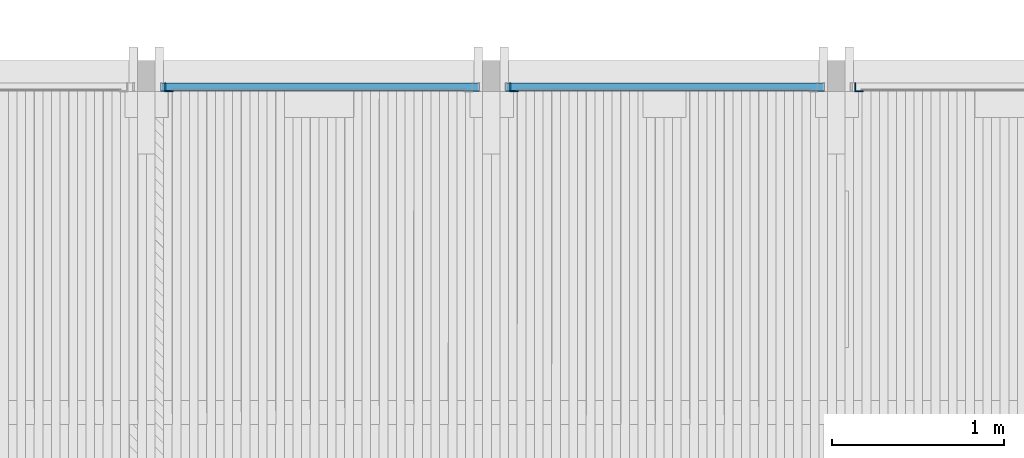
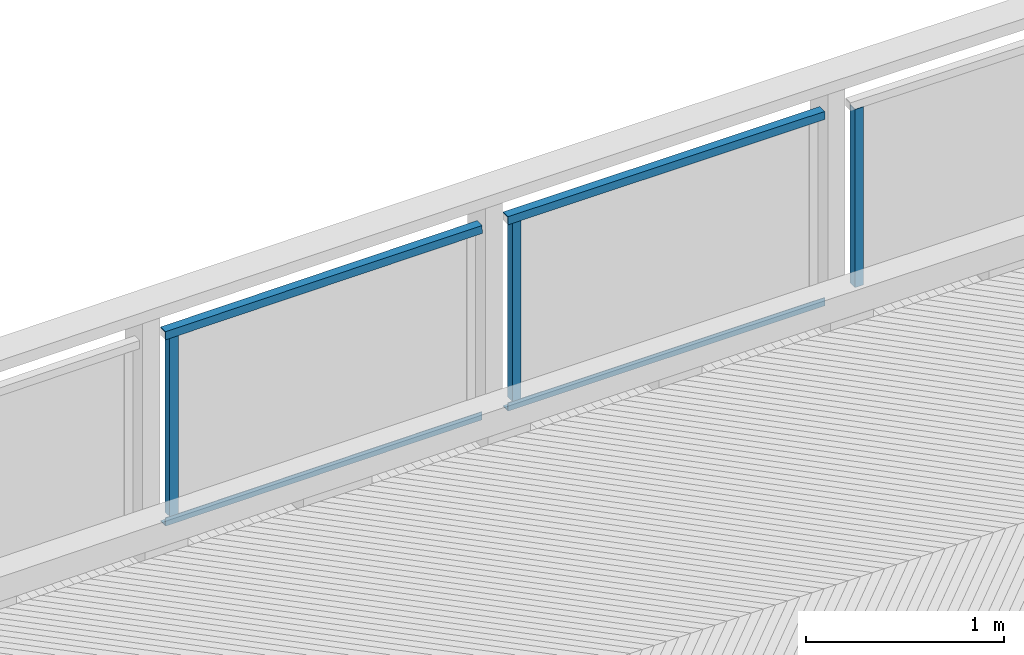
# One storey, part 38 of 65: 7 beams.
"""IFC2X3 building model written with IfcOpenShell, lengths in millimetres."""

from ifc_helpers import new_model, si_unit, frame, origin_with_axes, place, context, subcontext, project, spatial, faceted_brep, material, type_object, element, save


model = new_model("IFC2X3")

# Units and contexts
model_context = context("Model", 3, precision=1e-05, world=origin_with_axes())
body_context = subcontext(model_context, "Body", "Model", "MODEL_VIEW")
ifc_project = project(units=[si_unit("LENGTHUNIT", "METRE", prefix="MILLI"), si_unit("AREAUNIT", "SQUARE_METRE"), si_unit("VOLUMEUNIT", "CUBIC_METRE"), si_unit("MASSUNIT", "GRAM", prefix="KILO"), si_unit("TIMEUNIT", "SECOND"), si_unit("PLANEANGLEUNIT", "RADIAN"), si_unit("SOLIDANGLEUNIT", "STERADIAN"), si_unit("THERMODYNAMICTEMPERATUREUNIT", "DEGREE_CELSIUS"), si_unit("LUMINOUSINTENSITYUNIT", "LUMEN")], contexts=[model_context])

# Site, building, storey
site_placement = place(None, origin_with_axes())
site = spatial("IfcSite", under=ifc_project, at=site_placement, Name="Undefined", CompositionType="ELEMENT")
building_placement = place(site_placement, origin_with_axes())
building = spatial("IfcBuilding", under=site, at=building_placement, Name="Undefined", CompositionType="ELEMENT")
storey_placement = place(building_placement, origin_with_axes())
storey = spatial("IfcBuildingStorey", under=building, at=storey_placement, Name="Undefined", CompositionType="ELEMENT", Elevation=0.0)

# Beams
ifc_material = material(Name="STEEL/S235JR")
beam_type = type_object("IfcBeamType", Name="L50*5", PredefinedType="NOTDEFINED")
for number, where, z_axis, x_axis, name in (
    (1, (8132.49883273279, 24539.9900000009, 4416.23226264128), (0.0, 1.0, 0.0), (0.0, 0.0, -1.0), "BEAM"),
    (2, (6132.49883273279, 24539.9900000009, 4413.27203416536), (0.0, 1.0, 0.0), (0.0, 0.0, -1.0), "BEAM"),
):
    element("IfcBeam", number, at=place(storey_placement, frame(where, z_axis=z_axis, x_axis=x_axis)), inside=storey, type_object=beam_type, material=ifc_material, Name=name, ObjectType="L50*5", context=body_context, shape_type="Brep", body=[
        faceted_brep([(0.0, 25.0, -25.0), (0.0, 25.0, 25.0), (1100.00065383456, 25.0, 25.0), (1100.00065383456, 25.0, -25.0), (0.0, 20.0, 25.0), (1100.00065383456, 20.0, 25.0), (0.0, 20.0, -20.0), (1100.00065383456, 20.0, -20.0), (0.0, -25.0, -20.0), (1100.00065383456, -25.0, -20.0), (0.0, -25.0, -25.0), (1100.00065383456, -25.0, -25.0)], [[[0, 1, 2, 3]], [[1, 4, 5, 2]], [[4, 6, 7, 5]], [[6, 8, 9, 7]], [[8, 10, 11, 9]], [[10, 0, 3, 11]], [[5, 7, 9, 11, 3, 2]], [[10, 8, 6, 4, 1, 0]]]),
    ])
beam_1_placement = place(storey_placement, frame((4132.49883273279, 24539.9900000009, 4403.68498188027), z_axis=(0.0, 1.0, 0.0), x_axis=(0.0, 0.0, -1.0)))
element("IfcBeam", 3, at=beam_1_placement, inside=storey, type_object=beam_type, material=ifc_material, Name="BEAM", ObjectType="L50*5", context=body_context, shape_type="Brep", body=[
    faceted_brep([(0.0, 25.0, -25.0), (0.0, 25.0, 25.0), (1099.9997751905, 25.0, 25.0), (1099.9997751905, 25.0, -25.0), (0.0, 20.0, 25.0), (1099.9997751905, 20.0, 25.0), (0.0, 20.0, -20.0), (1099.9997751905, 20.0, -20.0), (0.0, -25.0, -20.0), (1099.9997751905, -25.0, -20.0), (0.0, -25.0, -25.0), (1099.9997751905, -25.0, -25.0)], [[[0, 1, 2, 3]], [[1, 4, 5, 2]], [[4, 6, 7, 5]], [[6, 8, 9, 7]], [[8, 10, 11, 9]], [[10, 0, 3, 11]], [[5, 7, 9, 11, 3, 2]], [[10, 8, 6, 4, 1, 0]]]),
])
beam_2_placement = place(storey_placement, frame((6082.9545811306, 24539.9900000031, 3288.23065639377), z_axis=(0.0, 1.0, 0.0), x_axis=(0.999998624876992, 0.0, 0.00165838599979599)))
element("IfcBeam", 4, at=beam_2_placement, inside=storey, type_object=beam_type, material=ifc_material, Name="BEAM", ObjectType="L50*5", context=body_context, shape_type="Brep", body=[
    faceted_brep([(0.0, 25.0, -25.0), (0.0, 25.0, 25.0), (1849.00413861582, 24.9999999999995, 25.0), (1849.00413861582, 24.9999999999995, -25.0), (0.0, 20.0, 25.0), (1849.00413861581, 20.0, 25.0), (0.0, 20.0, -20.0), (1849.00413861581, 20.0, -20.0), (0.0, -25.0, -20.0), (1849.00413861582, -25.0, -20.0), (0.0, -25.0, -25.0), (1849.00413861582, -25.0, -25.0)], [[[0, 1, 2, 3]], [[1, 4, 5, 2]], [[4, 6, 7, 5]], [[6, 8, 9, 7]], [[8, 10, 11, 9]], [[10, 0, 3, 11]], [[5, 7, 9, 11, 3, 2]], [[10, 8, 6, 4, 1, 0]]]),
])
beam_3_placement = place(storey_placement, frame((4082.87903009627, 24539.9900000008, 3278.56263366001), z_axis=(0.0, 1.0, 0.0), x_axis=(0.999987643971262, 0.0, 0.00497110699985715)))
element("IfcBeam", 5, at=beam_3_placement, inside=storey, type_object=beam_type, material=ifc_material, Name="BEAM", ObjectType="L50*5", context=body_context, shape_type="Brep", body=[
    faceted_brep([(0.0, 25.0, -25.0), (0.0, 25.0, 25.0), (1849.01737315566, 25.0, 25.0), (1849.01737315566, 25.0, -25.0), (0.0, 20.0, 25.0), (1849.01737315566, 20.0, 25.0), (0.0, 20.0, -20.0), (1849.01737315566, 20.0, -20.0), (0.0, -25.0, -20.0), (1849.01737315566, -25.0, -20.0), (0.0, -25.0, -25.0), (1849.01737315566, -25.0, -25.0)], [[[0, 1, 2, 3]], [[1, 4, 5, 2]], [[4, 6, 7, 5]], [[6, 8, 9, 7]], [[8, 10, 11, 9]], [[10, 0, 3, 11]], [[5, 7, 9, 11, 3, 2]], [[10, 8, 6, 4, 1, 0]]]),
])
beam_4_placement = place(storey_placement, frame((7932.03909642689, 24539.9899999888, 4441.29785098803), z_axis=(0.0, 1.0, 0.0), x_axis=(-0.999998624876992, 0.0, -0.00165838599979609)))
element("IfcBeam", 6, at=beam_4_placement, inside=storey, type_object=beam_type, material=ifc_material, Name="BEAM", ObjectType="L50*5", context=body_context, shape_type="Brep", body=[
    faceted_brep([(0.0, 25.0, -25.0), (0.0, 25.0, 25.0), (1849.00413861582, 24.9999999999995, 25.0), (1849.00413861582, 24.9999999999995, -25.0), (0.0, 20.0, 25.0), (1849.00413861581, 20.0, 25.0), (0.0, 20.0, -20.0), (1849.00413861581, 20.0, -20.0), (0.0, -25.0, -20.0), (1849.00413861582, -25.0, -20.0), (0.0, -25.0, -25.0), (1849.00413861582, -25.0, -25.0)], [[[0, 1, 2, 3]], [[1, 4, 5, 2]], [[4, 6, 7, 5]], [[6, 8, 9, 7]], [[8, 10, 11, 9]], [[10, 0, 3, 11]], [[5, 7, 9, 11, 3, 2]], [[10, 8, 6, 4, 1, 0]]]),
])
beam_5_placement = place(storey_placement, frame((5932.12211212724, 24539.9899999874, 4437.75567684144), z_axis=(0.0, 1.0, 0.0), x_axis=(-0.999987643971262, 0.0, -0.00497110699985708)))
element("IfcBeam", 7, at=beam_5_placement, inside=storey, type_object=beam_type, material=ifc_material, Name="BEAM", ObjectType="L50*5", context=body_context, shape_type="Brep", body=[
    faceted_brep([(0.0, 25.0, -25.0), (0.0, 25.0, 25.0), (1849.01737315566, 25.0, 25.0), (1849.01737315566, 25.0, -25.0), (0.0, 20.0, 25.0), (1849.01737315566, 20.0, 25.0), (0.0, 20.0, -20.0), (1849.01737315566, 20.0, -20.0), (0.0, -25.0, -20.0), (1849.01737315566, -25.0, -20.0), (0.0, -25.0, -25.0), (1849.01737315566, -25.0, -25.0)], [[[0, 1, 2, 3]], [[1, 4, 5, 2]], [[4, 6, 7, 5]], [[6, 8, 9, 7]], [[8, 10, 11, 9]], [[10, 0, 3, 11]], [[5, 7, 9, 11, 3, 2]], [[10, 8, 6, 4, 1, 0]]]),
])

save(model, "model.ifc")
